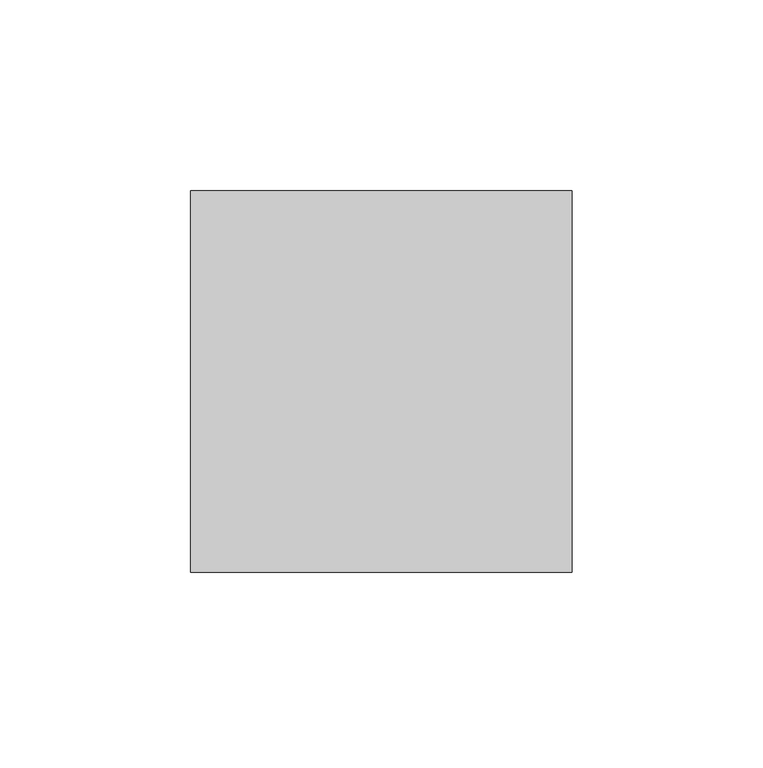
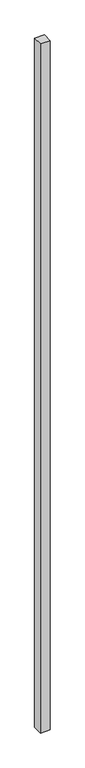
"""IFC4 building model written with IfcOpenShell, lengths in millimetres: proxy geometry, Брус : 100х100."""

import ifcopenshell
import ifcopenshell.guid

model = None  # the IFC model being written
_history = None  # IfcOwnerHistory: only IFC2X3 demands one
_inside = {}  # id of a spatial element -> (the spatial element, [elements in it])
_under = {}  # id of a project, library or spatial element -> (it, [spatial elements below it])
_declared = {}  # id of a project -> (the project, [libraries it declares])
_typed = {}  # id of a type object -> (the type object, [elements of that type])
_made_of = {}  # id of a material, layer set ... -> (it, [elements and type objects made of it])


def new_model(schema):
    """Start an empty IFC model of exactly this schema.

    Asked for "IFC4X3", IfcOpenShell would pick the latest addendum, in which some entities
    have other attributes; the version numbers below select the first issue.
    IFC2X3 requires an IfcOwnerHistory on every rooted entity: one is made here for all.
    """
    global model, _history
    if schema == "IFC4X3":
        model = ifcopenshell.file(schema_version=(4, 3, 0, 0))
    else:
        model = ifcopenshell.file(schema=schema)
    _inside.clear()
    _under.clear()
    _declared.clear()
    _typed.clear()
    _made_of.clear()
    _history = None
    if model.schema == "IFC2X3":
        org = make("IfcOrganization", Name="unknown")
        user = make(
            "IfcPersonAndOrganization",
            ThePerson=make("IfcPerson", FamilyName="unknown"),
            TheOrganization=org,
        )
        app = make(
            "IfcApplication",
            ApplicationDeveloper=org,
            Version="unknown",
            ApplicationFullName="unknown",
            ApplicationIdentifier="unknown",
        )
        _history = make(
            "IfcOwnerHistory",
            OwningUser=user,
            OwningApplication=app,
            ChangeAction="ADDED",
            CreationDate=0,
        )
    return model


def make(cls, **values):
    """One entity of the class cls with the attributes given. An attribute that is None is left unset."""
    return model.create_entity(
        cls, **{name: value for name, value in values.items() if value is not None}
    )


def rooted(cls, **values):
    """An entity with a GlobalId (a new one), such as an element, a storey or a relation."""
    return make(cls, GlobalId=ifcopenshell.guid.new(), OwnerHistory=_history, **values)


def si_unit(unit_type, name, prefix=None):
    """IfcSIUnit, for example si_unit("LENGTHUNIT", "METRE", prefix="MILLI")."""
    return make("IfcSIUnit", UnitType=unit_type, Prefix=prefix, Name=name)


def assignment(units):
    """IfcUnitAssignment: the units of a project."""
    return None if units is None else make("IfcUnitAssignment", Units=units)


def point(xyz):
    """IfcCartesianPoint."""
    return None if xyz is None else make("IfcCartesianPoint", Coordinates=xyz)


def direction(xyz):
    """IfcDirection."""
    return None if xyz is None else make("IfcDirection", DirectionRatios=xyz)


def frame(location, z_axis=None, x_axis=None):
    """IfcAxis2Placement3D, a coordinate frame: its origin and axes. An axis left out is left unset."""
    return make(
        "IfcAxis2Placement3D",
        Location=point(location),
        Axis=direction(z_axis),
        RefDirection=direction(x_axis),
    )


def origin():
    """The frame at (0, 0, 0) with its axes left unset."""
    return frame((0.0, 0.0, 0.0))


def origin_with_axes():
    """The frame at (0, 0, 0) with the z axis (0, 0, 1) and the x axis (1, 0, 0) written out."""
    return frame((0.0, 0.0, 0.0), z_axis=(0.0, 0.0, 1.0), x_axis=(1.0, 0.0, 0.0))


def place(relative_to, where):
    """IfcLocalPlacement: puts the frame where relative to a parent placement (None: the world)."""
    return make(
        "IfcLocalPlacement", PlacementRelTo=relative_to, RelativePlacement=where
    )


def context(
    kind, dimensions, precision=None, world=None, true_north=None, identifier=None
):
    """IfcGeometricRepresentationContext, for example the 3D "Model" context."""
    return make(
        "IfcGeometricRepresentationContext",
        ContextIdentifier=identifier,
        ContextType=kind,
        CoordinateSpaceDimension=dimensions,
        Precision=precision,
        WorldCoordinateSystem=world,
        TrueNorth=true_north,
    )


def project(units=None, contexts=None):
    """IfcProject with its units and contexts."""
    return rooted(
        "IfcProject",
        Name="project",
        RepresentationContexts=contexts,
        UnitsInContext=assignment(units),
    )


def spatial(cls, under=None, at=None, **own):
    """A site, building, storey or space (cls), placed at a placement, below another one or the project."""
    s = rooted(cls, ObjectPlacement=at, **own)
    if under is not None:
        _under.setdefault(under.id(), (under, []))[1].append(s)
    return s


def polyline(points):
    """IfcPolyline through the points."""
    return make("IfcPolyline", Points=[point(p) for p in points])


def outline(outer, holes=None, kind="AREA"):
    """IfcArbitraryClosedProfileDef: a profile drawn as a closed curve; with holes, ...WithVoids."""
    if holes is None:
        return make("IfcArbitraryClosedProfileDef", ProfileType=kind, OuterCurve=outer)
    return make(
        "IfcArbitraryProfileDefWithVoids",
        ProfileType=kind,
        OuterCurve=outer,
        InnerCurves=holes,
    )


def extrude(swept, where, along, depth):
    """IfcExtrudedAreaSolid: the profile swept, set in the frame where, extruded along a direction by depth."""
    return make(
        "IfcExtrudedAreaSolid",
        SweptArea=swept,
        Position=where,
        ExtrudedDirection=direction(along),
        Depth=depth,
    )


def shape(context_of_items, identifier, shape_type, items):
    """IfcShapeRepresentation: the items that make up one representation, for example the "Body"."""
    return make(
        "IfcShapeRepresentation",
        ContextOfItems=context_of_items,
        RepresentationIdentifier=identifier,
        RepresentationType=shape_type,
        Items=items,
    )


def source(mapping_origin, context_of_items, identifier, shape_type, items):
    """IfcRepresentationMap: a shape defined once, which mapped items show again and again."""
    return make(
        "IfcRepresentationMap",
        MappingOrigin=mapping_origin,
        MappedRepresentation=shape(context_of_items, identifier, shape_type, items),
    )


def transform(
    local_origin,
    x_axis=None,
    y_axis=None,
    z_axis=None,
    scale=None,
    scale2=None,
    scale3=None,
    uniform=True,
):
    """IfcCartesianTransformationOperator3D, or its non-uniform kind. x_axis, y_axis, z_axis: its Axis1, 2, 3."""
    if uniform:
        return make(
            "IfcCartesianTransformationOperator3D",
            Axis1=direction(x_axis),
            Axis2=direction(y_axis),
            LocalOrigin=point(local_origin),
            Scale=scale,
            Axis3=direction(z_axis),
        )
    return make(
        "IfcCartesianTransformationOperator3DnonUniform",
        Axis1=direction(x_axis),
        Axis2=direction(y_axis),
        LocalOrigin=point(local_origin),
        Scale=scale,
        Axis3=direction(z_axis),
        Scale2=scale2,
        Scale3=scale3,
    )


def mapped(mapping_source, mapping_target):
    """IfcMappedItem: shows the shape of a source again, moved by a transform."""
    return make(
        "IfcMappedItem", MappingSource=mapping_source, MappingTarget=mapping_target
    )


def made_of(thing, what):
    """Note that an element or type object is made of a material, layer set ...; save() writes the relation."""
    if what is not None:
        _made_of.setdefault(what.id(), (what, []))[1].append(thing)
    return thing


def element(
    cls,
    number,
    at=None,
    inside=None,
    cuts=None,
    type_object=None,
    material=None,
    context=None,
    identifier="Body",
    shape_type=None,
    held_by="IfcProductDefinitionShape",
    body=None,
    shapes=None,
    **own,
):
    """One element of the class cls, such as IfcWall. Its Tag is "e" and its number.

    at: its placement. inside: the storey or other place that contains it. cuts: it is an
    opening in that element (IfcRelVoidsElement). A single representation is given by context,
    identifier, shape_type and body (its items); several are given by shapes. held_by: the class
    of the entity that holds the representations. save() writes the other relations.
    """
    e = rooted(cls, Tag="e%d" % number, ObjectPlacement=at, **own)
    if body is not None:
        shapes = [shape(context, identifier, shape_type, body)]
    if shapes is not None:
        e.Representation = make(held_by, Representations=shapes)
    if inside is not None:
        _inside.setdefault(inside.id(), (inside, []))[1].append(e)
    if cuts is not None:
        rooted(
            "IfcRelVoidsElement", RelatingBuildingElement=cuts, RelatedOpeningElement=e
        )
    if type_object is not None:
        _typed.setdefault(type_object.id(), (type_object, []))[1].append(e)
    return made_of(e, material)


def aggregate(whole, parts):
    """IfcRelAggregates: a whole, such as a stair, and the parts it consists of."""
    return rooted("IfcRelAggregates", RelatingObject=whole, RelatedObjects=parts)


def save(model, path):
    """Write the relations noted so far, then the file.

    IfcRelAggregates (storeys below a building ...), IfcRelContainedInSpatialStructure (elements
    in a storey), IfcRelDefinesByType, IfcRelAssociatesMaterial and IfcRelDeclares: one each for
    every whole, place, type object, material and project.
    """
    for whole, parts in _under.values():
        aggregate(whole, parts)
    for where, things in _inside.values():
        rooted(
            "IfcRelContainedInSpatialStructure",
            RelatedElements=things,
            RelatingStructure=where,
        )
    for kind, things in _typed.values():
        rooted("IfcRelDefinesByType", RelatedObjects=things, RelatingType=kind)
    for what, things in _made_of.values():
        rooted("IfcRelAssociatesMaterial", RelatedObjects=things, RelatingMaterial=what)
    for by, libraries in _declared.values():
        rooted("IfcRelDeclares", RelatingContext=by, RelatedDefinitions=libraries)
    model.write(path)


def generic_models_e0d11672(model_context):
    return source(origin(), model_context, "Body", "SweptSolid", [
        extrude(outline(polyline([(100.0, 0.0), (0.0, 0.0), (0.0, 100.0), (100.0, 100.0), (100.0, 0.0)])), origin_with_axes(), (0.0, 0.0, 1.0), 7455.0),
    ])


if __name__ == "__main__":
    model = new_model("IFC4")
    model_context = context("Model", 3, world=origin())
    ifc_project = project(units=[si_unit("LENGTHUNIT", "METRE", prefix="MILLI")], contexts=[model_context])
    site = spatial("IfcSite", under=ifc_project)
    building = spatial("IfcBuilding", under=site)
    placement = place(None, origin())
    generic_models_shape = generic_models_e0d11672(model_context)
    element("IfcBuildingElementProxy", 1, Name="Брус : 100х100", ObjectType="Брус : 100х100", at=placement, inside=building, context=model_context, shape_type="MappedRepresentation", body=[
        mapped(generic_models_shape, transform((0.0, 0.0, 0.0), x_axis=(1.0, 0.0, 0.0), y_axis=(0.0, 1.0, 0.0), z_axis=(0.0, 0.0, 1.0))),
    ])
    save(model, "model.ifc")
